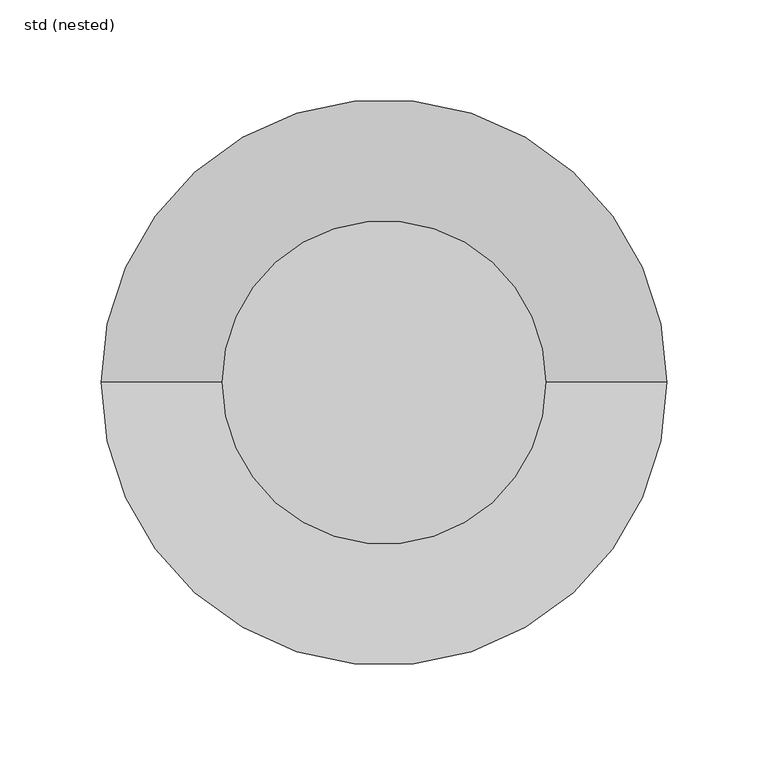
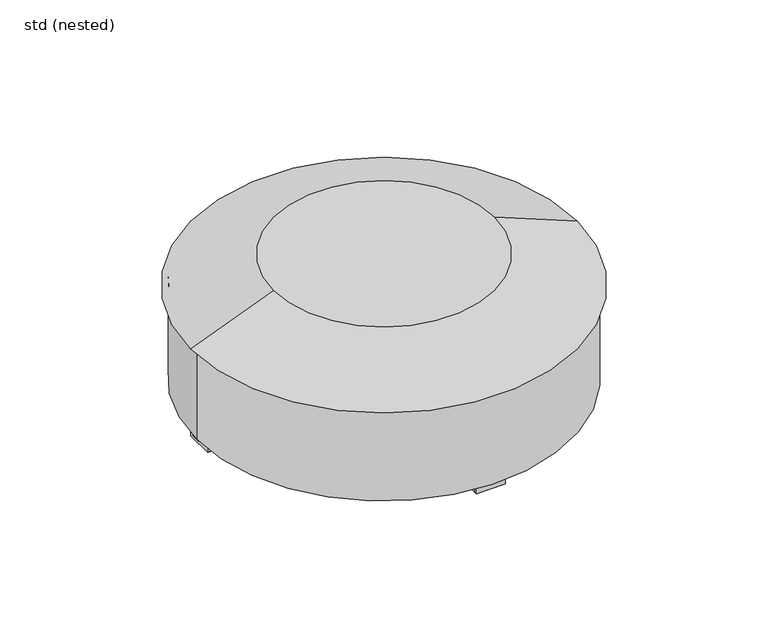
"""IFC4 building model written with IfcOpenShell, lengths in millimetres: sanitary terminal geometry, ZZZ_do not use_PF_ST_gravel trap cover_ACO : std (nested)."""

from ifc_helpers import new_model, si_unit, frame, origin, origin_with_axes, place, context, project, spatial, polyline, circle_curve, outline, extrude, source, transform, mapped, element, save
from ifc_brep_helpers import plane_surface, cylinder_surface, revolved_surface, advanced_brep


def std_nested_96657f73(model_context):
    return source(origin(), model_context, "Body", "SolidModel", [
        extrude(outline(polyline([(10.5, 133.8), (10.5, 131.8), (-10.5, 131.8), (-10.5, 133.8), (10.5, 133.8)])), origin_with_axes(), (0.0, 0.0, 1.0), 4.5),
        extrude(outline(polyline([(10.5, 103.8), (-10.5, 103.8), (-10.5, 133.8), (10.5, 133.8), (10.5, 103.8)])), origin_with_axes(), (0.0, 0.0, 1.0), 2.0),
        extrude(outline(polyline([(10.5, -133.8), (-10.5, -133.8), (-10.5, -131.8), (10.5, -131.8), (10.5, -133.8)])), origin_with_axes(), (0.0, 0.0, 1.0), 4.5),
        extrude(outline(polyline([(10.5, -103.8), (10.5, -133.8), (-10.5, -133.8), (-10.5, -103.8), (10.5, -103.8)])), origin_with_axes(), (0.0, 0.0, 1.0), 2.0),
        extrude(outline(polyline([(-133.8, -10.5), (-133.8, 10.5), (-131.8, 10.5), (-131.8, -10.5), (-133.8, -10.5)])), origin_with_axes(), (0.0, 0.0, 1.0), 4.5),
        extrude(outline(polyline([(-103.8, -10.5), (-133.8, -10.5), (-133.8, 10.5), (-103.8, 10.5), (-103.8, -10.5)])), origin_with_axes(), (0.0, 0.0, 1.0), 2.0),
        extrude(outline(polyline([(4.5, 133.8), (4.5, 131.8), (2.0, 131.8), (2.0, 103.8), (0.0, 103.8), (0.0, 133.8), (4.5, 133.8)])), frame((0.0, -10.5, 0.0), z_axis=(0.0, 1.0, 0.0), x_axis=(0.0, 0.0, 1.0)), (0.0, 0.0, 1.0), 21.0),
        advanced_brep(
        [(-80.0, 0.0, 99.0), (80.0, 0.0, 99.0), (-140.0, 0.0, 75.0), (140.0, 0.0, 75.0)],
        [
            (0, 1, circle_curve(frame((0.0, 0.0, 99.0), z_axis=(0.0, 0.0, 1.0), x_axis=(-1.0, 0.0, 0.0)), 80.0)),
            (1, 0, circle_curve(frame((0.0, 0.0, 99.0), z_axis=(0.0, 0.0, 1.0), x_axis=(1.0, 0.0, 0.0)), 80.0)),
            (2, 3, circle_curve(frame((0.0, 0.0, 75.0), z_axis=(0.0, 0.0, -1.0), x_axis=(1.0, 0.0, 0.0)), 140.0)),
            (3, 2, circle_curve(frame((0.0, 0.0, 75.0), z_axis=(0.0, 0.0, -1.0), x_axis=(-1.0, 0.0, 0.0)), 140.0)),
            (3, 1),
            (0, 2),
        ],
        [
            plane_surface(frame((0.0, 0.0, 99.0), z_axis=(0.0, 0.0, 1.0), x_axis=(0.0, -1.0, 0.0))),
            plane_surface(frame((0.0, 0.0, 75.0), z_axis=(0.0, 0.0, -1.0), x_axis=(0.0, -1.0, 0.0))),
            revolved_surface(polyline([(-80.0, 0.0, 99.0), (-140.0, 0.0, 75.0)]), (0.0, 0.0, 131.0), (0.0, 0.0, -1.0)),
            revolved_surface(polyline([(80.0, 0.0, 99.0), (140.0, 0.0, 75.0)]), (0.0, 0.0, 131.0), (0.0, 0.0, -1.0)),
        ],
        [
            (0, [[1, 2]]),
            (1, [[3, 4]]),
            (2, [[-4, 5, -1, 6]]),
            (3, [[-3, -6, -2, -5]]),
        ],
    ),
        advanced_brep(
        [(135.75, 0.0, 75.0), (-135.75, 0.0, 75.0), (-132.75, 0.0, 75.0), (132.75, 0.0, 75.0), (135.75, 0.0, 4.5), (-135.75, 0.0, 4.5), (132.75, 0.0, 4.5), (-132.75, 0.0, 4.5)],
        [
            (0, 1, circle_curve(frame((0.0, 0.0, 75.0), z_axis=(0.0, 0.0, 1.0), x_axis=(-1.0, 0.0, 0.0)), 135.75)),
            (1, 2),
            (2, 3, circle_curve(frame((0.0, 0.0, 75.0), z_axis=(0.0, 0.0, -1.0), x_axis=(-1.0, 0.0, 0.0)), 132.75)),
            (3, 0),
            (1, 0, circle_curve(frame((0.0, 0.0, 75.0), z_axis=(0.0, 0.0, 1.0), x_axis=(-1.0, 0.0, 0.0)), 135.75)),
            (3, 2, circle_curve(frame((0.0, 0.0, 75.0), z_axis=(0.0, 0.0, -1.0), x_axis=(-1.0, 0.0, 0.0)), 132.75)),
            (4, 5, circle_curve(frame((0.0, 0.0, 4.5), z_axis=(0.0, 0.0, 1.0), x_axis=(-1.0, 0.0, 0.0)), 135.75)),
            (5, 1),
            (0, 4),
            (5, 4, circle_curve(frame((0.0, 0.0, 4.5), z_axis=(0.0, 0.0, 1.0), x_axis=(-1.0, 0.0, 0.0)), 135.75)),
            (6, 7, circle_curve(frame((0.0, 0.0, 4.5), z_axis=(0.0, 0.0, 1.0), x_axis=(-1.0, 0.0, 0.0)), 132.75)),
            (7, 5),
            (4, 6),
            (7, 6, circle_curve(frame((0.0, 0.0, 4.5), z_axis=(0.0, 0.0, 1.0), x_axis=(-1.0, 0.0, 0.0)), 132.75)),
            (2, 7),
            (6, 3),
        ],
        [
            plane_surface(frame((0.0, 0.0, 75.0), z_axis=(0.0, 0.0, 1.0), x_axis=(-1.0, 0.0, 0.0))),
            cylinder_surface(frame((0.0, 0.0, 90.0), z_axis=(0.0, 0.0, -1.0), x_axis=(-1.0, 0.0, 0.0)), 135.75),
            plane_surface(frame((0.0, 0.0, 4.5), z_axis=(0.0, 0.0, -1.0), x_axis=(-1.0, 0.0, 0.0))),
            revolved_surface(polyline([(-132.75, 0.0, 4.5), (-132.75, 0.0, 75.0)]), (0.0, 0.0, 90.0), (0.0, 0.0, -1.0)),
        ],
        [
            (0, [[1, 2, 3, 4]]),
            (0, [[5, -4, 6, -2]]),
            (1, [[7, 8, -1, 9]]),
            (1, [[10, -9, -5, -8]]),
            (2, [[11, 12, -7, 13]]),
            (2, [[14, -13, -10, -12]]),
            (3, [[-3, 15, -11, 16]]),
            (3, [[-6, -16, -14, -15]]),
        ],
    ),
    ])


if __name__ == "__main__":
    model = new_model("IFC4")
    model_context = context("Model", 3, world=origin())
    ifc_project = project(units=[si_unit("LENGTHUNIT", "METRE", prefix="MILLI")], contexts=[model_context])
    site = spatial("IfcSite", under=ifc_project)
    building = spatial("IfcBuilding", under=site)
    placement = place(None, origin())
    std_nested_shape = std_nested_96657f73(model_context)
    element("IfcSanitaryTerminal", 1, ObjectType="ZZZ_do not use_PF_ST_gravel trap cover_ACO : std (nested)", at=placement, inside=building, context=model_context, shape_type="MappedRepresentation", body=[
        mapped(std_nested_shape, transform((0.0, 0.0, 0.0), x_axis=(1.0, 0.0, 0.0), y_axis=(0.0, 1.0, 0.0), z_axis=(0.0, 0.0, 1.0))),
    ])
    save(model, "model.ifc")
